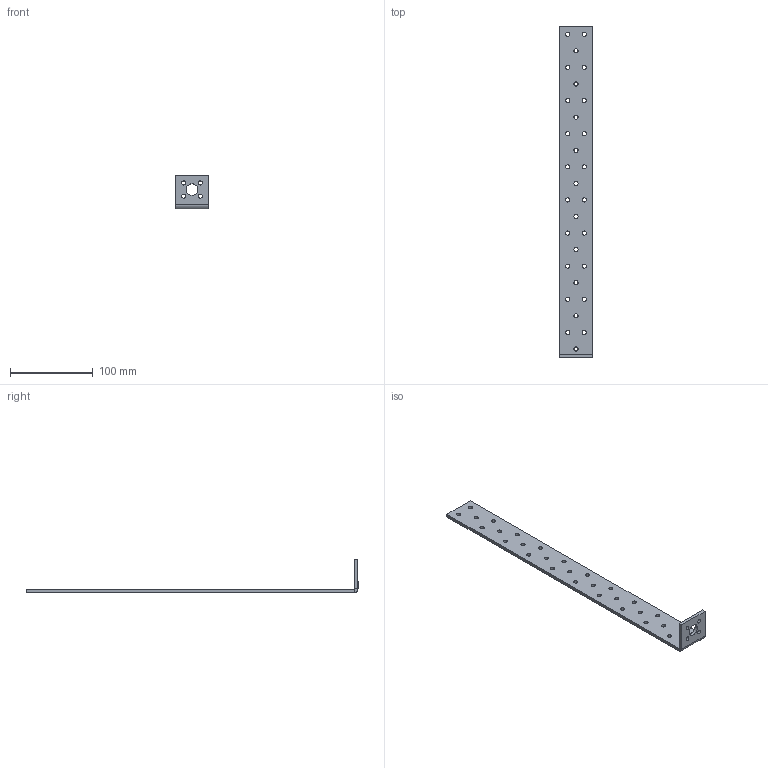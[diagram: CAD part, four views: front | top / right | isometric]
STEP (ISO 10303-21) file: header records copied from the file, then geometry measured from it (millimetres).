
FILE_DESCRIPTION (( 'STEP AP203' ), '1' );
FILE_NAME ('544.STEP', '2021-06-22T14:07:57', ( '' ), ( '' ), 'SwSTEP 2.0', 'SolidWorks 2013', '' );
FILE_SCHEMA (( 'CONFIG_CONTROL_DESIGN' ));
Length unit declared in the file: millimetre
Products named in the file (1): 544
Bounding box: 40 x 400.84 x 40.84 mm (x, y, z)
Volume: 66556 mm3; surface area: 39402.3 mm2
Topology: 1 solids, 1 shells, 84 faces, 238 edges, 156 vertices
Faces by surface type: cylinder 72, plane 12
Entity records: 3021 total; most frequent: DIRECTION 552, CARTESIAN_POINT 479, ORIENTED_EDGE 476, EDGE_CURVE 238, AXIS2_PLACEMENT_3D 229, VERTEX_POINT 156, EDGE_LOOP 154, CIRCLE 144
